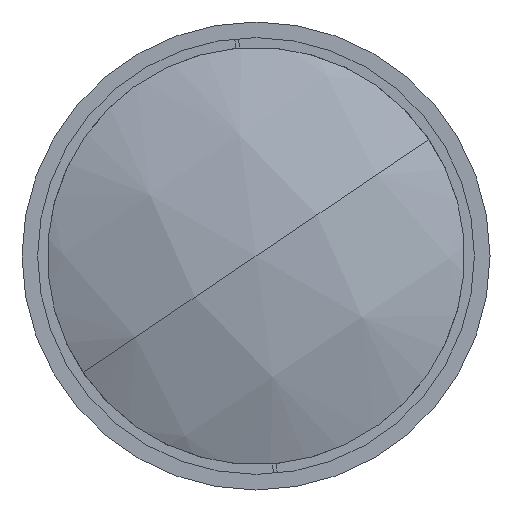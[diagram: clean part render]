
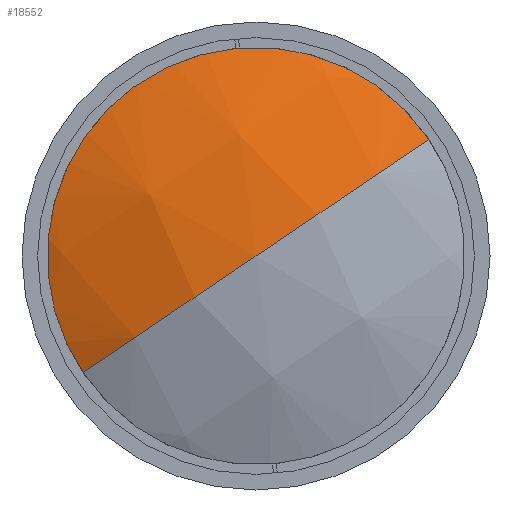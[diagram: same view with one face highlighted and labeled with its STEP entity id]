
A CAD part, left-side view. The second image highlights one B-rep face of the part: STEP entity #18552.
In plain terms, the highlighted spherical face has radius 133.05 mm.
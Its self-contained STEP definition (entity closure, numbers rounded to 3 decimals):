
#597 = CIRCLE ( 'NONE', #12922, 133.05 ) ;
#1649 = FACE_OUTER_BOUND ( 'NONE', #7841, .T. ) ;
#1879 = EDGE_CURVE ( 'NONE', #17408, #26707, #597, .T. ) ;
#2149 = CARTESIAN_POINT ( 'NONE',  ( 13.4, -45.636, 30.697 ) ) ;
#3016 = DIRECTION ( 'NONE',  ( -1., 0., 0. ) ) ;
#4665 = AXIS2_PLACEMENT_3D ( 'NONE', #12765, #32315, #15541 ) ;
#5001 = CIRCLE ( 'NONE', #4665, 55. ) ;
#7841 = EDGE_LOOP ( 'NONE', ( #8210, #14874, #18730, #31610 ) ) ;
#7901 = CARTESIAN_POINT ( 'NONE',  ( 134.55, 0., 0. ) ) ;
#8210 = ORIENTED_EDGE ( 'NONE', *, *, #19698, .T. ) ;
#10674 = DIRECTION ( 'NONE',  ( 0., 0.83, -0.558 ) ) ;
#12233 = AXIS2_PLACEMENT_3D ( 'NONE', #14307, #20520, #34659 ) ;
#12514 = CARTESIAN_POINT ( 'NONE',  ( 13.4, 30.697, 45.636 ) ) ;
#12765 = CARTESIAN_POINT ( 'NONE',  ( 13.4, 0., 0. ) ) ;
#12922 = AXIS2_PLACEMENT_3D ( 'NONE', #27952, #27827, #27706 ) ;
#14307 = CARTESIAN_POINT ( 'NONE',  ( 134.55, 0., 0. ) ) ;
#14874 = ORIENTED_EDGE ( 'NONE', *, *, #23996, .T. ) ;
#15541 = DIRECTION ( 'NONE',  ( 0., 0.558, 0.83 ) ) ;
#17408 = VERTEX_POINT ( 'NONE', #27268 ) ;
#18552 = ADVANCED_FACE ( 'NONE', ( #1649 ), #29600, .T. ) ;
#18730 = ORIENTED_EDGE ( 'NONE', *, *, #1879, .T. ) ;
#19642 = CARTESIAN_POINT ( 'NONE',  ( 13.4, 0., 0. ) ) ;
#19698 = EDGE_CURVE ( 'NONE', #32921, #27583, #29576, .T. ) ;
#20520 = DIRECTION ( 'NONE',  ( 0., 0.558, 0.83 ) ) ;
#22500 = DIRECTION ( 'NONE',  ( 0., 0.558, 0.83 ) ) ;
#23996 = EDGE_CURVE ( 'NONE', #27583, #17408, #5001, .T. ) ;
#25789 = AXIS2_PLACEMENT_3D ( 'NONE', #19642, #3016, #22500 ) ;
#26707 = VERTEX_POINT ( 'NONE', #27711 ) ;
#27012 = EDGE_CURVE ( 'NONE', #32921, #26707, #32884, .T. ) ;
#27268 = CARTESIAN_POINT ( 'NONE',  ( 13.4, 45.636, -30.697 ) ) ;
#27414 = DIRECTION ( 'NONE',  ( 0., -0.558, -0.83 ) ) ;
#27583 = VERTEX_POINT ( 'NONE', #12514 ) ;
#27706 = DIRECTION ( 'NONE',  ( 0., -0.83, 0.558 ) ) ;
#27711 = CARTESIAN_POINT ( 'NONE',  ( 1.5, 0., 0. ) ) ;
#27827 = DIRECTION ( 'NONE',  ( 0., 0.558, 0.83 ) ) ;
#27952 = CARTESIAN_POINT ( 'NONE',  ( 134.55, 0., 0. ) ) ;
#29576 = CIRCLE ( 'NONE', #25789, 55. ) ;
#29600 = SPHERICAL_SURFACE ( 'NONE', #12233, 133.05 ) ;
#31610 = ORIENTED_EDGE ( 'NONE', *, *, #27012, .F. ) ;
#31953 = AXIS2_PLACEMENT_3D ( 'NONE', #7901, #27414, #10674 ) ;
#32315 = DIRECTION ( 'NONE',  ( -1., 0., 0. ) ) ;
#32884 = CIRCLE ( 'NONE', #31953, 133.05 ) ;
#32921 = VERTEX_POINT ( 'NONE', #2149 ) ;
#34659 = DIRECTION ( 'NONE',  ( 0., -0.83, 0.558 ) ) ;
